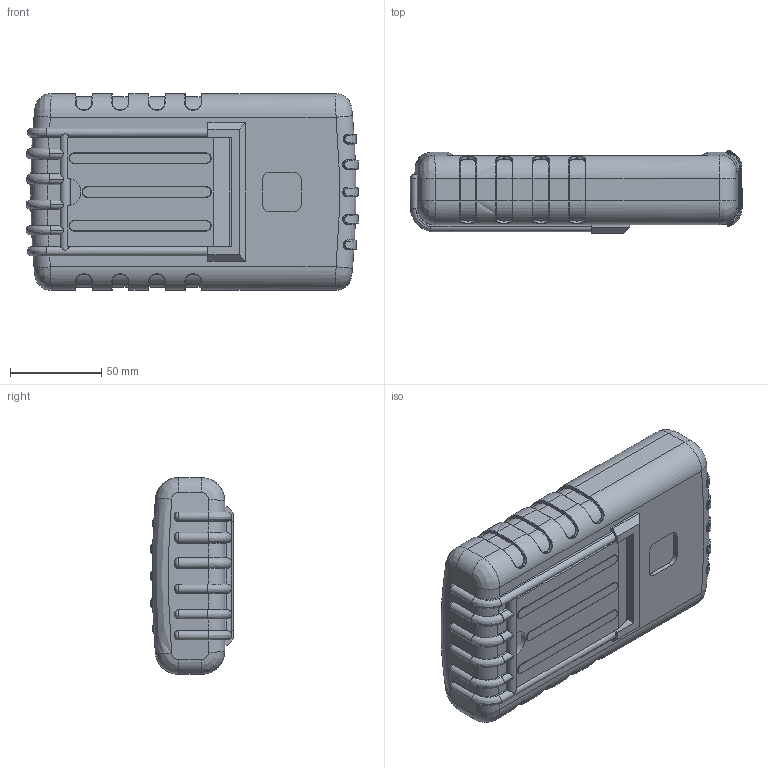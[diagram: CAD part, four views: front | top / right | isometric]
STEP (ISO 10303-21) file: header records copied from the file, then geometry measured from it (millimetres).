
FILE_DESCRIPTION (( 'STEP AP214' ), '1' );
FILE_NAME ('91-42-29V-R.STEP', '2020-10-17T15:43:29', ( 'Rudy' ), ( '' ), 'SwSTEP 2.0', 'SolidWorks 2014', '' );
FILE_SCHEMA (( 'AUTOMOTIVE_DESIGN' ));
Length unit declared in the file: millimetre
Products named in the file (8): 29V door; 91 LCD Top; 90-29V Shallow; 91-42-29V-R; 90 RBT; RT 90 stand; 90 PCB 29V-4AA
Assembly tree (7 placements, depth 3):
  91-42-29V-R
    90-29V Shallow
    91 LCD Top
    29V door
    90 PCB 29V-4AA
    90 RBT
      90 RBT
      RT 90 stand
Bounding box: 182.05 x 45.61 x 108 mm (x, y, z)
Volume: 355094.9 mm3; surface area: 205934.2 mm2
Topology: 6 solids, 6 shells, 1430 faces, 3693 edges, 2298 vertices
Faces by surface type: plane 604, cylinder 438, bspline 180, torus 128, cone 62, sphere 18
Entity records: 55630 total; most frequent: CARTESIAN_POINT 21513, ORIENTED_EDGE 7350, DIRECTION 6826, EDGE_CURVE 3675, AXIS2_PLACEMENT_3D 2425, VERTEX_POINT 2290, VECTOR 1976, LINE 1976
